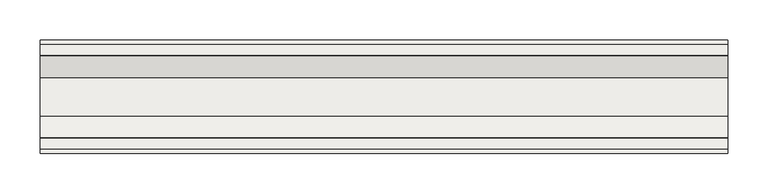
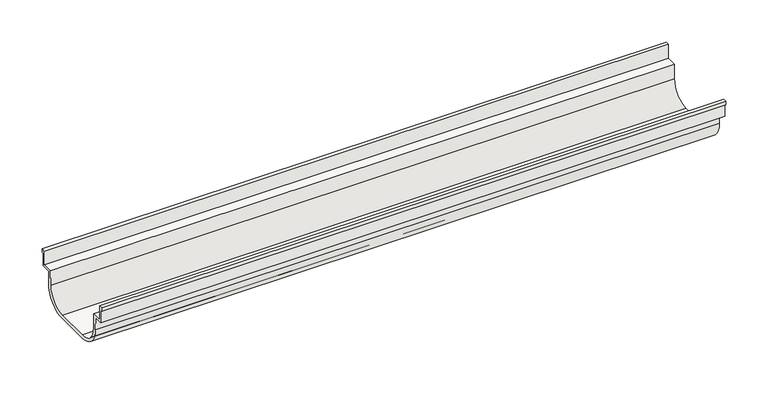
"""IFC4 building model written with IfcOpenShell, lengths in millimetres: slab geometry, ROSA GRES_CRA C1 : Pieza CRA C1."""

from ifc_helpers import new_model, si_unit, point, frame, frame_2d, origin, place, context, project, spatial, polyline, circle_curve, trimmed, segment, composite_curve, outline, extrude, source, transform, mapped, element, save


def slab_4d192273(model_context):
    return source(origin(), model_context, "Body", "SweptSolid", [
        extrude(outline(composite_curve([segment(polyline([(0.0, -5.0), (0.0, 0.0), (5.0, 0.0), (5.0, -20.0), (19.0, -20.0), (19.3573264, -40.471215)]), True, "CONTINUOUS"), segment(trimmed(circle_curve(frame_2d((46.3532142, -40.0)), 27.0), [point((19.3573264, -40.471215))], [point((46.3532142, -67.0))], True, "CARTESIAN"), True, "CONTINUOUS"), segment(polyline([(46.3532142, -67.0), (93.6467858, -67.0)]), True, "CONTINUOUS"), segment(trimmed(circle_curve(frame_2d((93.6467858, -40.0)), 27.0), [point((93.6467858, -67.0))], [point((120.6426736, -40.471215))], True, "CARTESIAN"), True, "CONTINUOUS"), segment(polyline([(120.6426736, -40.471215), (121.0, -20.0), (135.0, -20.0), (135.0, 0.0), (140.0, 0.0), (140.0, -5.0), (137.6, -5.0), (137.6, -23.0), (125.4983279, -23.0), (125.1919806, -40.5506234)]), True, "CONTINUOUS"), segment(trimmed(circle_curve(frame_2d((93.6467858, -40.0)), 31.55), [point((125.1919806, -40.5506234))], [point((93.6467858, -71.55))], False, "CARTESIAN"), True, "CONTINUOUS"), segment(polyline([(93.6467858, -71.55), (46.3532142, -71.55)]), True, "CONTINUOUS"), segment(trimmed(circle_curve(frame_2d((46.3532142, -40.0)), 31.55), [point((46.3532142, -71.55))], [point((14.8080194, -40.5506234))], False, "CARTESIAN"), True, "CONTINUOUS"), segment(polyline([(14.8080194, -40.5506234), (14.5016721, -23.0), (2.4, -23.0), (2.4, -5.0), (0.0, -5.0)]), True, "CONTINUOUS")], self_intersect=False)), frame((0.0, 0.0, 0.0), z_axis=(1.0, 0.0, 0.0), x_axis=(0.0, 1.0, 0.0)), (0.0, 0.0, 1.0), 850.0000035),
    ])


if __name__ == "__main__":
    model = new_model("IFC4")
    model_context = context("Model", 3, world=origin())
    ifc_project = project(units=[si_unit("LENGTHUNIT", "METRE", prefix="MILLI")], contexts=[model_context])
    site = spatial("IfcSite", under=ifc_project)
    building = spatial("IfcBuilding", under=site)
    placement = place(None, origin())
    slab_shape = slab_4d192273(model_context)
    element("IfcSlab", 1, ObjectType="ROSA GRES_CRA C1 : Pieza CRA C1", at=placement, inside=building, context=model_context, shape_type="MappedRepresentation", body=[
        mapped(slab_shape, transform((0.0, 0.0, 0.0), x_axis=(1.0, 0.0, 0.0), y_axis=(0.0, 1.0, 0.0), z_axis=(0.0, 0.0, 1.0))),
    ])
    save(model, "model.ifc")
